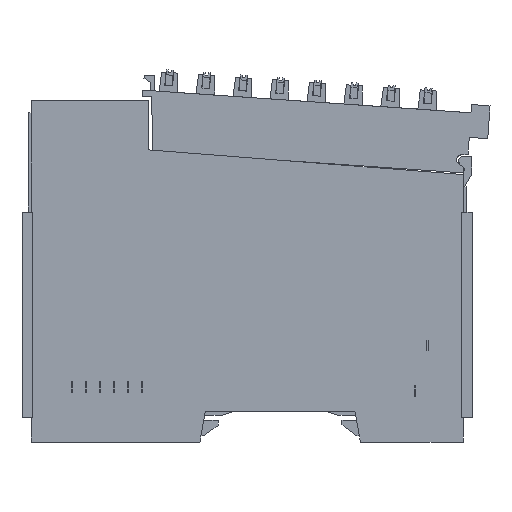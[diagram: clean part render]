
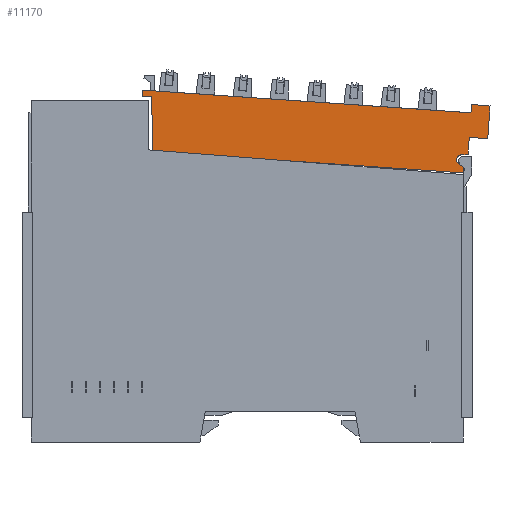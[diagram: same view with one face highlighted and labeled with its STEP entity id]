
A CAD part, left-side view. The second image highlights one B-rep face of the part: STEP entity #11170.
In plain terms, the highlighted planar face has unit normal (-1, 0, 0) as drawn and (0, 0, 1) by its records, which use the part's own axes.
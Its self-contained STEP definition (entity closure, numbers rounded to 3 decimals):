
#8040=DIRECTION('',(0.998,-0.069,0.));
#8041=VECTOR('',#8040,79.95);
#8042=CARTESIAN_POINT('',(-77.899,20.117,13.1));
#8043=LINE('',#8042,#8041);
#8044=DIRECTION('',(0.069,0.998,0.));
#8045=VECTOR('',#8044,2.);
#8046=CARTESIAN_POINT('',(1.861,14.606,13.1));
#8047=LINE('',#8046,#8045);
#8048=DIRECTION('',(0.998,-0.069,0.));
#8049=VECTOR('',#8048,4.5);
#8050=CARTESIAN_POINT('',(1.999,16.602,13.1));
#8051=LINE('',#8050,#8049);
#8052=DIRECTION('',(-0.069,-0.998,0.));
#8053=VECTOR('',#8052,8.);
#8054=CARTESIAN_POINT('',(6.488,16.292,13.1));
#8055=LINE('',#8054,#8053);
#8056=DIRECTION('',(-0.998,0.069,0.));
#8057=VECTOR('',#8056,4.5);
#8058=CARTESIAN_POINT('',(5.937,8.311,13.1));
#8059=LINE('',#8058,#8057);
#8060=DIRECTION('',(-0.069,-0.998,0.));
#8061=VECTOR('',#8060,4.07);
#8062=CARTESIAN_POINT('',(1.448,8.621,13.1));
#8063=LINE('',#8062,#8061);
#8064=DIRECTION('',(-0.994,-0.109,0.));
#8065=VECTOR('',#8064,1.759);
#8066=CARTESIAN_POINT('',(1.167,4.56,13.1));
#8067=LINE('',#8066,#8065);
#8068=CARTESIAN_POINT('',(-0.451,3.176,13.1));
#8069=DIRECTION('',(0.,0.,1.));
#8070=DIRECTION('',(-0.109,0.994,0.));
#8071=AXIS2_PLACEMENT_3D('',#8068,#8069,#8070);
#8073=CARTESIAN_POINT('',(-0.451,3.176,13.1));
#8074=DIRECTION('',(0.,0.,1.));
#8075=DIRECTION('',(-1.,0.,0.));
#8076=AXIS2_PLACEMENT_3D('',#8073,#8074,#8075);
#8078=DIRECTION('',(0.83,-0.558,0.));
#8079=VECTOR('',#8078,1.465);
#8080=CARTESIAN_POINT('',(-1.121,2.18,13.1));
#8081=LINE('',#8080,#8079);
#8082=DIRECTION('',(-0.069,-0.998,0.));
#8083=VECTOR('',#8082,1.365);
#8084=CARTESIAN_POINT('',(0.094,1.362,13.1));
#8085=LINE('',#8084,#8083);
#8086=DIRECTION('',(-0.998,0.069,0.));
#8087=VECTOR('',#8086,75.555);
#8088=CARTESIAN_POINT('',(0.,0.,13.1));
#8089=LINE('',#8088,#8087);
#8090=DIRECTION('',(-0.027,1.,0.));
#8091=VECTOR('',#8090,13.261);
#8092=CARTESIAN_POINT('',(-75.375,5.207,13.1));
#8093=LINE('',#8092,#8091);
#8094=DIRECTION('',(-0.998,0.069,0.));
#8095=VECTOR('',#8094,2.274);
#8096=CARTESIAN_POINT('',(-75.734,18.464,13.1));
#8097=LINE('',#8096,#8095);
#8098=DIRECTION('',(0.069,0.998,0.));
#8099=VECTOR('',#8098,1.5);
#8100=CARTESIAN_POINT('',(-78.002,18.62,13.1));
#8101=LINE('',#8100,#8099);
#10228=CARTESIAN_POINT('',(1.861,14.606,13.1));
#10229=VERTEX_POINT('',#10228);
#10230=CARTESIAN_POINT('',(-77.899,20.117,13.1));
#10231=VERTEX_POINT('',#10230);
#10324=CARTESIAN_POINT('',(-78.002,18.62,13.1));
#10325=VERTEX_POINT('',#10324);
#10326=CARTESIAN_POINT('',(-75.734,18.464,13.1));
#10327=VERTEX_POINT('',#10326);
#10328=CARTESIAN_POINT('',(1.999,16.602,13.1));
#10329=VERTEX_POINT('',#10328);
#10330=CARTESIAN_POINT('',(6.488,16.292,13.1));
#10331=VERTEX_POINT('',#10330);
#10332=CARTESIAN_POINT('',(5.937,8.311,13.1));
#10333=VERTEX_POINT('',#10332);
#10334=CARTESIAN_POINT('',(1.448,8.621,13.1));
#10335=VERTEX_POINT('',#10334);
#10336=CARTESIAN_POINT('',(1.167,4.56,13.1));
#10337=VERTEX_POINT('',#10336);
#10338=CARTESIAN_POINT('',(-0.582,4.369,13.1));
#10339=VERTEX_POINT('',#10338);
#10340=CARTESIAN_POINT('',(-1.651,3.176,13.1));
#10341=CARTESIAN_POINT('',(-1.121,2.18,13.1));
#10342=VERTEX_POINT('',#10340);
#10343=VERTEX_POINT('',#10341);
#10344=CARTESIAN_POINT('',(0.094,1.362,13.1));
#10345=VERTEX_POINT('',#10344);
#10346=CARTESIAN_POINT('',(0.,0.,13.1));
#10347=VERTEX_POINT('',#10346);
#10348=CARTESIAN_POINT('',(-75.375,5.207,13.1));
#10349=VERTEX_POINT('',#10348);
#11136=CARTESIAN_POINT('',(0.,0.,13.1));
#11137=DIRECTION('',(0.,0.,1.));
#11138=DIRECTION('',(1.,0.,0.));
#11139=AXIS2_PLACEMENT_3D('',#11136,#11137,#11138);
#11140=PLANE('',#11139);
#11141=ORIENTED_EDGE('',*,*,#10996,.T.);
#11143=ORIENTED_EDGE('',*,*,#11142,.T.);
#11145=ORIENTED_EDGE('',*,*,#11144,.T.);
#11147=ORIENTED_EDGE('',*,*,#11146,.T.);
#11149=ORIENTED_EDGE('',*,*,#11148,.T.);
#11151=ORIENTED_EDGE('',*,*,#11150,.T.);
#11153=ORIENTED_EDGE('',*,*,#11152,.T.);
#11155=ORIENTED_EDGE('',*,*,#11154,.T.);
#11157=ORIENTED_EDGE('',*,*,#11156,.T.);
#11159=ORIENTED_EDGE('',*,*,#11158,.T.);
#11161=ORIENTED_EDGE('',*,*,#11160,.T.);
#11163=ORIENTED_EDGE('',*,*,#11162,.T.);
#11165=ORIENTED_EDGE('',*,*,#11164,.T.);
#11166=ORIENTED_EDGE('',*,*,#11116,.T.);
#11167=ORIENTED_EDGE('',*,*,#11130,.T.);
#11168=EDGE_LOOP('',(#11141,#11143,#11145,#11147,#11149,#11151,#11153,#11155,
#11157,#11159,#11161,#11163,#11165,#11166,#11167));
#11169=FACE_OUTER_BOUND('',#11168,.F.);
#11170=ADVANCED_FACE('',(#11169),#11140,.T.);
#8072=CIRCLE('',#8071,1.2);
#8077=CIRCLE('',#8076,1.2);
#10996=EDGE_CURVE('',#10231,#10229,#8043,.T.);
#11116=EDGE_CURVE('',#10327,#10325,#8097,.T.);
#11130=EDGE_CURVE('',#10325,#10231,#8101,.T.);
#11142=EDGE_CURVE('',#10229,#10329,#8047,.T.);
#11144=EDGE_CURVE('',#10329,#10331,#8051,.T.);
#11146=EDGE_CURVE('',#10331,#10333,#8055,.T.);
#11148=EDGE_CURVE('',#10333,#10335,#8059,.T.);
#11150=EDGE_CURVE('',#10335,#10337,#8063,.T.);
#11152=EDGE_CURVE('',#10337,#10339,#8067,.T.);
#11154=EDGE_CURVE('',#10339,#10342,#8072,.T.);
#11156=EDGE_CURVE('',#10342,#10343,#8077,.T.);
#11158=EDGE_CURVE('',#10343,#10345,#8081,.T.);
#11160=EDGE_CURVE('',#10345,#10347,#8085,.T.);
#11162=EDGE_CURVE('',#10347,#10349,#8089,.T.);
#11164=EDGE_CURVE('',#10349,#10327,#8093,.T.);
